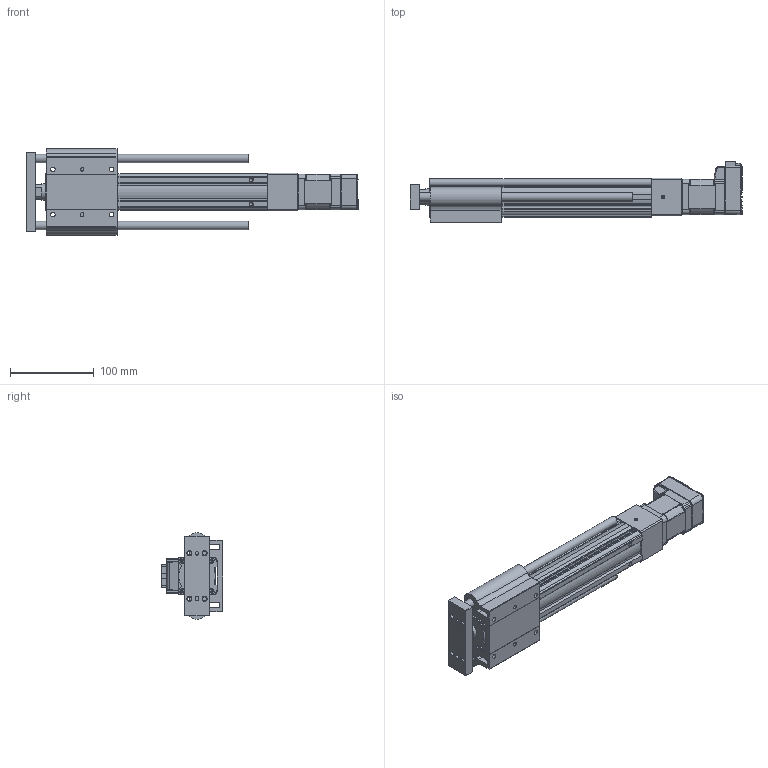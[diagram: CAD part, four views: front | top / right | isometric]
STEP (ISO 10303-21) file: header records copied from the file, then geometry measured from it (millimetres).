
FILE_DESCRIPTION (( 'STEP AP214' ), '1' );
FILE_NAME ('LEYG3(+)-25LDNM1□-150-17L.STEP', '2023-04-10T04:35:14', ( '' ), ( '' ), 'SwSTEP 2.0', 'SolidWorks 2019', '' );
FILE_SCHEMA (( 'AUTOMOTIVE_DESIGN' ));
Length unit declared in the file: millimetre
Products named in the file (6): LEYG3(+)-25LNM1?_ROD_150; LEYG3(+)-25□DNM1_MOTOR Flange; CM3(+)-17L50A; LEYG3(+)-25LDNM1□-150-17L; LEYG3(+)-25LNM1□_ATTACH_150; LEYG3(+)-25NM1?_BODY_150
Assembly tree (5 placements, depth 2):
  LEYG3(+)-25LDNM1□-150-17L
    LEYG3(+)-25NM1?_BODY_150
    LEYG3(+)-25LNM1?_ROD_150
    LEYG3(+)-25LNM1□_ATTACH_150
    LEYG3(+)-25□DNM1_MOTOR Flange
    CM3(+)-17L50A
Bounding box: 395.8 x 73.55 x 103 mm (x, y, z)
Volume: 867519.9 mm3; surface area: 193044.4 mm2
Topology: 5 solids, 5 shells, 940 faces, 2388 edges, 1501 vertices
Faces by surface type: plane 499, cylinder 272, cone 90, bspline 29, torus 29, sphere 21
Full cylindrical faces by diameter (mm): 2.5 x4, 3.5 x4, 4 x2, 4.2 x2, 4.9 x4, 5 x1, 5.4 x4, 8 x1, 10 x2, 11 x1, 22 x1, 33 x1
Entity records: 38867 total; most frequent: CARTESIAN_POINT 6846, ORIENTED_EDGE 4620, DIRECTION 4489, EDGE_CURVE 2310, AXIS2_PLACEMENT_3D 1502, VERTEX_POINT 1494, VECTOR 1485, LINE 1485
